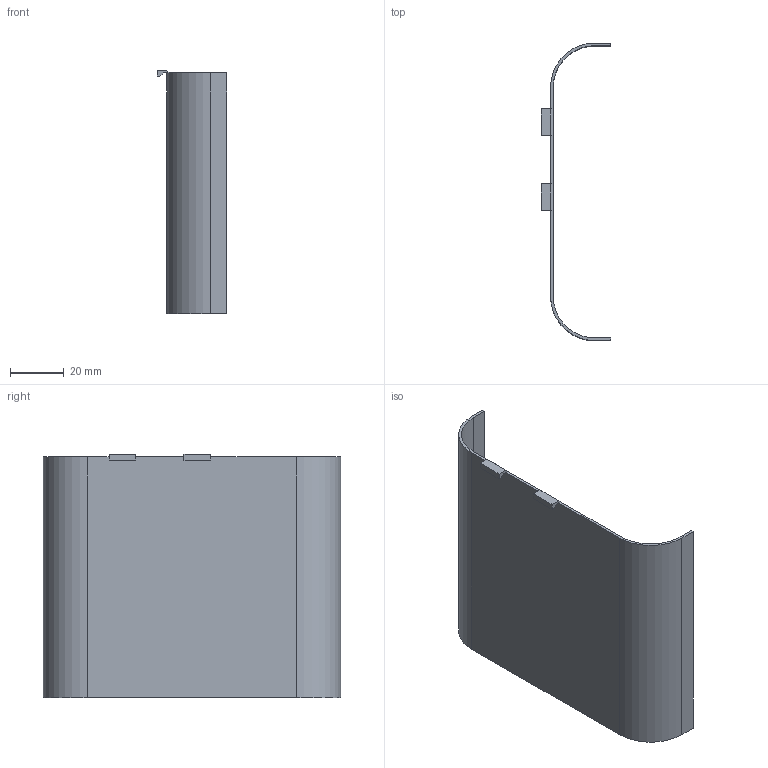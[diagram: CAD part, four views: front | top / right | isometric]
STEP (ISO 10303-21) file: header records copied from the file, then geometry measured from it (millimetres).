
FILE_DESCRIPTION(('Open CASCADE Model'),'2;1');
FILE_NAME('Open CASCADE Shape Model','2026-11-02T07:01:47',('Author'),( 'Open CASCADE'),'Open CASCADE STEP processor 7.8','Open CASCADE 7.8' ,'Unknown');
FILE_SCHEMA(('AUTOMOTIVE_DESIGN { 1 0 10303 214 1 1 1 1 }'));
Length unit declared in the file: millimetre
Products named in the file (1): Open CASCADE STEP translator 7.8 2
Bounding box: 26 x 111.22 x 91 mm (x, y, z)
Volume: 12760.1 mm3; surface area: 25970.3 mm2
Topology: 1 solids, 1 shells, 32 faces, 82 edges, 52 vertices
Faces by surface type: plane 28, cylinder 4
Entity records: 2038 total; most frequent: CARTESIAN_POINT 355, DIRECTION 316, LINE 230, VECTOR 230, ORIENTED_EDGE 164, PCURVE 164, DEFINITIONAL_REPRESENTATION 164, EDGE_CURVE 82
